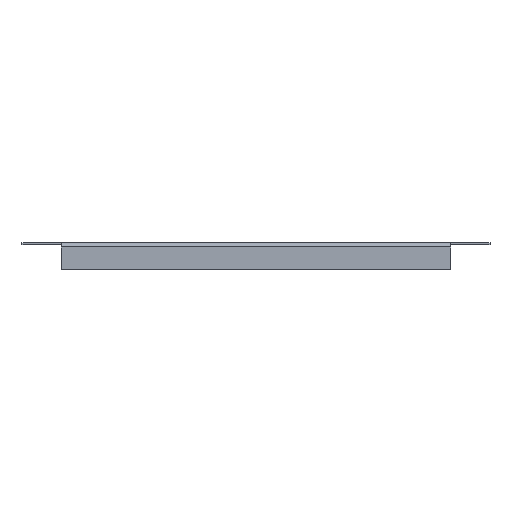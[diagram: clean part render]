
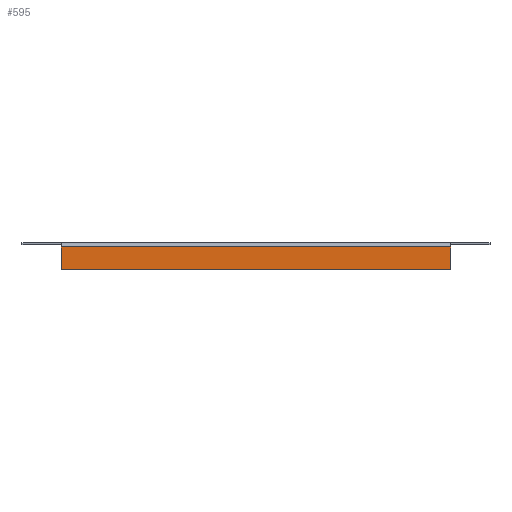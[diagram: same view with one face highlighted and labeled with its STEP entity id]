
A CAD part, front view. The second image highlights one B-rep face of the part: STEP entity #595.
In plain terms, the highlighted planar face has unit normal (0, -1, 0).
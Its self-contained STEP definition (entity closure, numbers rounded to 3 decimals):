
#29 = DIRECTION ( 'NONE',  ( 1., 0., 0. ) ) ;
#41 = EDGE_LOOP ( 'NONE', ( #1246, #164, #1669, #107 ) ) ;
#107 = ORIENTED_EDGE ( 'NONE', *, *, #286, .F. ) ;
#164 = ORIENTED_EDGE ( 'NONE', *, *, #1515, .F. ) ;
#186 = EDGE_CURVE ( 'NONE', #968, #476, #795, .T. ) ;
#200 = LINE ( 'NONE', #1638, #589 ) ;
#286 = EDGE_CURVE ( 'NONE', #476, #1635, #200, .T. ) ;
#292 = VECTOR ( 'NONE', #850, 1000. ) ;
#325 = CARTESIAN_POINT ( 'NONE',  ( -110.2, -224.5, -1.2 ) ) ;
#379 = CARTESIAN_POINT ( 'NONE',  ( 110.2, -224.5, 0. ) ) ;
#390 = CARTESIAN_POINT ( 'NONE',  ( 110.2, -224.5, -13.8 ) ) ;
#442 = DIRECTION ( 'NONE',  ( 0., 0., 1. ) ) ;
#476 = VERTEX_POINT ( 'NONE', #1162 ) ;
#515 = PLANE ( 'NONE',  #863 ) ;
#558 = LINE ( 'NONE', #1521, #1145 ) ;
#559 = CARTESIAN_POINT ( 'NONE',  ( 110.2, -224.5, -1.2 ) ) ;
#589 = VECTOR ( 'NONE', #1650, 1000. ) ;
#595 = ADVANCED_FACE ( 'NONE', ( #812 ), #515, .F. ) ;
#648 = DIRECTION ( 'NONE',  ( 0., 0., 1. ) ) ;
#767 = DIRECTION ( 'NONE',  ( 0., 1., 0. ) ) ;
#795 = LINE ( 'NONE', #559, #944 ) ;
#808 = EDGE_CURVE ( 'NONE', #1635, #1207, #1130, .T. ) ;
#812 = FACE_OUTER_BOUND ( 'NONE', #41, .T. ) ;
#850 = DIRECTION ( 'NONE',  ( -1., 0., 0. ) ) ;
#863 = AXIS2_PLACEMENT_3D ( 'NONE', #379, #767, #648 ) ;
#944 = VECTOR ( 'NONE', #29, 1000. ) ;
#968 = VERTEX_POINT ( 'NONE', #325 ) ;
#1130 = LINE ( 'NONE', #1136, #292 ) ;
#1136 = CARTESIAN_POINT ( 'NONE',  ( 110.2, -224.5, -13.8 ) ) ;
#1145 = VECTOR ( 'NONE', #442, 1000. ) ;
#1162 = CARTESIAN_POINT ( 'NONE',  ( 110.2, -224.5, -1.2 ) ) ;
#1207 = VERTEX_POINT ( 'NONE', #1295 ) ;
#1246 = ORIENTED_EDGE ( 'NONE', *, *, #186, .F. ) ;
#1295 = CARTESIAN_POINT ( 'NONE',  ( -110.2, -224.5, -13.8 ) ) ;
#1515 = EDGE_CURVE ( 'NONE', #1207, #968, #558, .T. ) ;
#1521 = CARTESIAN_POINT ( 'NONE',  ( -110.2, -224.5, -13.8 ) ) ;
#1635 = VERTEX_POINT ( 'NONE', #390 ) ;
#1638 = CARTESIAN_POINT ( 'NONE',  ( 110.2, -224.5, 0. ) ) ;
#1650 = DIRECTION ( 'NONE',  ( 0., 0., -1. ) ) ;
#1669 = ORIENTED_EDGE ( 'NONE', *, *, #808, .F. ) ;
